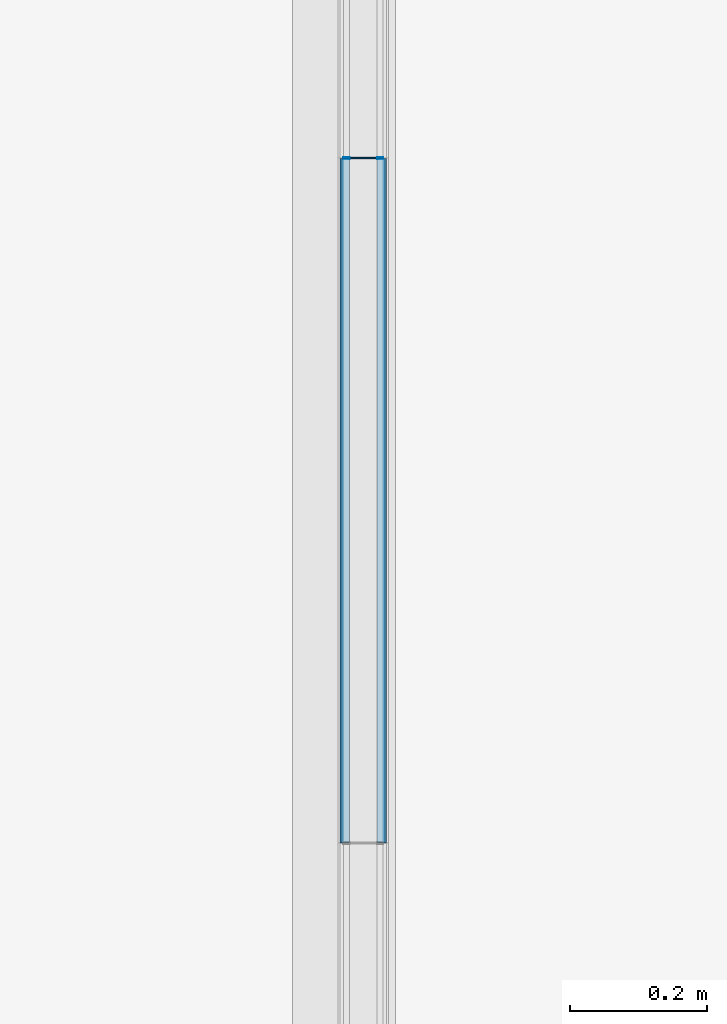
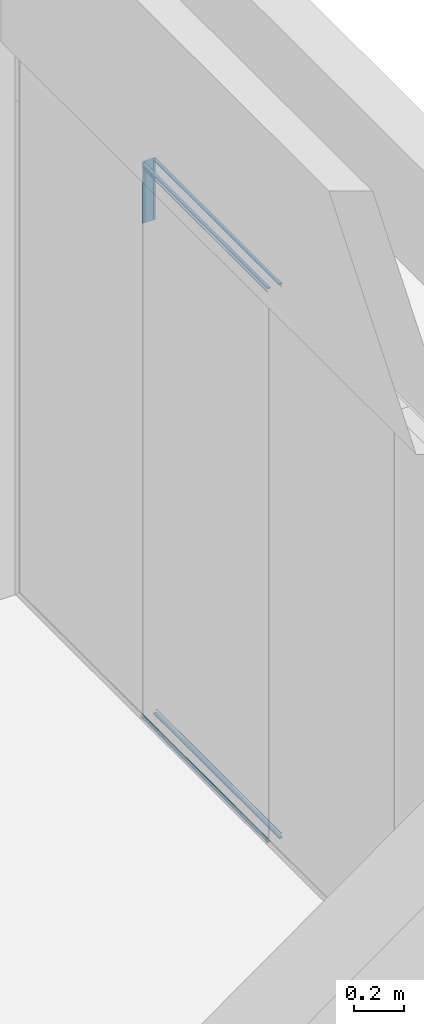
# One storey, part 24 of 65: 4 building element parts, 4 elements without a shape of their own.
"""IFC2X3 building model written with IfcOpenShell, lengths in millimetres."""

from ifc_helpers import new_model, entity, si_unit, converted_unit, derived_unit, money_unit, direction, frame, origin_with_axes, place, context, subcontext, project, spatial, faceted_brep, source, transform, mapped, material, type_object, element, aggregate, save


model = new_model("IFC2X3")

# Units and contexts
model_context = context("Model", 3, precision=0.01, world=origin_with_axes(), true_north=direction((0.0, 1.0)))
body_context = subcontext(model_context, "Body", "Model", "MODEL_VIEW")
ifc_project = project(units=[si_unit("LENGTHUNIT", "METRE", prefix="MILLI"), si_unit("AREAUNIT", "SQUARE_METRE"), si_unit("VOLUMEUNIT", "CUBIC_METRE"), converted_unit("PLANEANGLEUNIT", "DEGREE", entity("IfcPlaneAngleMeasure", 0.0174532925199), si_unit("PLANEANGLEUNIT", "RADIAN"), dimensions=[0, 0, 0, 0, 0, 0, 0]), si_unit("SOLIDANGLEUNIT", "STERADIAN"), money_unit("EUR"), converted_unit("TIMEUNIT", "Year", entity("IfcTimeMeasure", 31556926.0), si_unit("TIMEUNIT", "SECOND"), dimensions=[0, 0, 1, 0, 0, 0, 0]), si_unit("MASSUNIT", "GRAM", prefix="KILO"), si_unit("THERMODYNAMICTEMPERATUREUNIT", "DEGREE_CELSIUS"), si_unit("LUMINOUSINTENSITYUNIT", "LUMEN"), si_unit("ENERGYUNIT", "JOULE", prefix="MEGA"), derived_unit("THERMALCONDUCTANCEUNIT", [(si_unit("POWERUNIT", "WATT"), 1), (si_unit("LENGTHUNIT", "METRE"), -1), (si_unit("THERMODYNAMICTEMPERATUREUNIT", "KELVIN"), -1)]), derived_unit("SPECIFICHEATCAPACITYUNIT", [(si_unit("ENERGYUNIT", "JOULE"), 1), (si_unit("MASSUNIT", "GRAM", prefix="KILO"), -1), (si_unit("THERMODYNAMICTEMPERATUREUNIT", "KELVIN"), -1)]), derived_unit("MASSDENSITYUNIT", [(si_unit("MASSUNIT", "GRAM", prefix="KILO"), 1), (si_unit("VOLUMEUNIT", "CUBIC_METRE"), -1)])], contexts=[model_context])

# Site, building, storey
site_placement = place(None, origin_with_axes())
site = spatial("IfcSite", under=ifc_project, at=site_placement, Name="Puškini 31, Narva", CompositionType="ELEMENT")
building_placement = place(site_placement, origin_with_axes())
building = spatial("IfcBuilding", under=site, at=building_placement, Name="Narva Riigigümnaasium", CompositionType="ELEMENT")
storey_placement = place(building_placement, frame((0.0, 0.0, -1320.0), z_axis=(0.0, 0.0, 1.0), x_axis=(1.0, 0.0, 0.0)))
storey = spatial("IfcBuildingStorey", under=building, at=storey_placement, Name="1.korrus -1.32", CompositionType="ELEMENT", Elevation=-1320.0)

# Curtain wall, members, building element parts
curtain_wall_type = type_object("IfcCurtainWallType", Name="Curtain Wall Type", PredefinedType="NOTDEFINED")
curtain_wall_placement = place(storey_placement, frame((30362.9999988, 168706.249936, -1.99739158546e-06), z_axis=(0.0, 0.0, 1.0), x_axis=(1.0, 0.0, 0.0)))
curtain_wall = element("IfcCurtainWall", 1, at=curtain_wall_placement, inside=storey, type_object=curtain_wall_type, Name="G-SKLF-05")
member_type_1 = type_object("IfcMemberType", Name="Siseklaasfassaad - Raam n2htamatu 3 x 29", PredefinedType="MULLION")
member_1_placement = place(curtain_wall_placement, frame((0.0, 1496.25, 2400.000002), z_axis=(0.0, 0.0, 1.0), x_axis=(0.0, -1.0, 0.0)))
member_1 = element("IfcMember", 2, at=member_1_placement, type_object=member_type_1, Name="G-SKLF-05-klaasidevaheline tihend", ObjectType="MULLION")
ifc_material_1 = material(Name="Klaas")
shared_shape_1 = source(origin_with_axes(), body_context, "Body", "Brep", [
    faceted_brep([(1.49998613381, 29.0064496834, 270.000069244), (1.4999861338, 29.0064496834, 0.0), (-1.5000138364, 29.0064496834, 0.0), (-1.50001386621, 29.0064496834, 270.000069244), (0.0, 29.0064496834, 300.000088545), (1.49998613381, 20.0064497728, 270.000069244), (1.4999861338, 20.0064497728, 0.0), (-1.5000138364, 20.0064497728, 0.0), (-1.50001386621, 20.0064497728, 270.000069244), (0.0, 20.0064497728, 300.000088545)], [[[0, 1, 2, 3, 4]], [[5, 6, 1, 0]], [[1, 6, 7, 2]], [[3, 2, 7, 8]], [[8, 9, 4, 3]], [[4, 9, 5, 0]], [[9, 8, 7, 6, 5]]]),
    faceted_brep([(1.49998613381, -19.993550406, 270.000069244), (1.4999861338, -19.993550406, 0.0), (-1.5000138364, -19.993550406, 0.0), (-1.50001386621, -19.993550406, 270.000069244), (0.0, -19.993550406, 300.000088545), (1.49998613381, -28.9935503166, 270.000069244), (1.4999861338, -28.9935503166, 0.0), (-1.5000138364, -28.9935503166, 0.0), (-1.50001386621, -28.9935503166, 270.000069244), (0.0, -28.9935503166, 300.000088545)], [[[0, 1, 2, 3, 4]], [[5, 6, 1, 0]], [[2, 1, 6, 7]], [[3, 2, 7, 8]], [[8, 9, 4, 3]], [[4, 9, 5, 0]], [[9, 8, 7, 6, 5]]]),
])
building_element_part_1_placement = place(member_1_placement, origin_with_axes())
building_element_part_1 = element("IfcBuildingElementPart", 3, at=building_element_part_1_placement, material=ifc_material_1, Name="Klaas", context=body_context, shape_type="MappedRepresentation", body=[
    mapped(shared_shape_1, transform((0.0, 0.0, 0.0), x_axis=(-1.0, 0.0, 0.0), y_axis=(0.0, -1.0, 0.0), z_axis=(0.0, 0.0, 1.0))),
])
ifc_material_2 = material(Name="VKR-06_Õhkvahe")
shared_shape_2 = source(origin_with_axes(), body_context, "Body", "Brep", [
    faceted_brep([(1.49998613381, 20.0064496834, 270.000069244), (1.4999861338, 20.0064496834, 0.0), (-1.5000138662, 20.0064496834, 0.0), (-1.50001386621, 20.0064496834, 270.000069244), (0.0, 20.0064496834, 300.000088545), (1.49998613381, -19.9935503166, 270.000069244), (1.4999861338, -19.9935503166, 0.0), (-1.5000138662, -19.9935503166, 0.0), (-1.50001386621, -19.9935503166, 270.000069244), (0.0, -19.9935503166, 300.000088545)], [[[0, 1, 2, 3, 4]], [[5, 6, 1, 0]], [[2, 1, 6, 7]], [[3, 2, 7, 8]], [[8, 9, 4, 3]], [[4, 9, 5, 0]], [[9, 8, 7, 6, 5]]]),
])
building_element_part_2_placement = place(member_1_placement, origin_with_axes())
building_element_part_2 = element("IfcBuildingElementPart", 4, at=building_element_part_2_placement, material=ifc_material_2, Name="VKR-06_Õhkvahe", context=body_context, shape_type="MappedRepresentation", body=[
    mapped(shared_shape_2, transform((0.0, 0.0, 0.0), x_axis=(-1.0, 0.0, 0.0), y_axis=(0.0, -1.0, 0.0), z_axis=(0.0, 0.0, 1.0))),
])
aggregate(member_1, [building_element_part_1, building_element_part_2])
member_type_2 = type_object("IfcMemberType", Name="Boundary Frame 30 x 37", PredefinedType="MULLION")
member_2_placement = place(curtain_wall_placement, frame((0.0, 498.75, 2700.00009054), z_axis=(0.0, 1.0, 0.0), x_axis=(0.0, 0.0, 1.0)))
member_2 = element("IfcMember", 5, at=member_2_placement, type_object=member_type_2, Name="G-SKLF-12-raam", ObjectType="MULLION")
ifc_material_3 = material(Name="Klaasvill")
shared_shape_3 = source(origin_with_axes(), body_context, "Body", "Brep", [
    faceted_brep([(13.8499999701, 20.000000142, 0.69249315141), (13.8499999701, 20.000000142, 996.807494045), (7.49999990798, 20.000000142, 997.124996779), (7.49999990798, 20.000000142, 0.374996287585), (13.8499999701, 34.0161444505, 0.69249315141), (13.8499999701, 34.0161444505, 996.807494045), (7.49999990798, 34.0161444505, 997.124996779), (7.49999990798, 34.0161444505, 0.374996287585)], [[[0, 1, 2, 3]], [[4, 5, 1, 0]], [[2, 1, 5, 6]], [[3, 2, 6, 7]], [[3, 7, 4, 0]], [[7, 6, 5, 4]]]),
    faceted_brep([(25.004489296, 32.0307503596, 1.2502121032), (25.004489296, 32.0307503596, 996.249764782), (24.987414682, 34.0161444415, 996.25061852), (24.987414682, 34.0161444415, 1.24935838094), (25.742237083, 31.2930025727, 1.28709912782), (25.742237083, 31.2930025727, 996.212877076), (26.7500193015, 31.0229681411, 996.162487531), (27.75780152, 31.2930025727, 996.112097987), (28.4955493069, 32.0307503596, 996.075210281), (28.7655837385, 33.0385325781, 996.061708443), (28.5126239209, 34.0161444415, 996.074356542), (28.5126239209, 34.0161444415, 1.42561710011), (28.7655837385, 33.0385325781, 1.43826496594), (28.4955493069, 32.0307503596, 1.42476337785), (27.75780152, 31.2930025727, 1.38787635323), (26.7500193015, 31.0229681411, 1.33748774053)], [[[0, 1, 2, 3]], [[4, 5, 1, 0]], [[2, 1, 5, 6, 7, 8, 9, 10]], [[3, 2, 10, 11]], [[3, 11, 12, 13, 14, 15, 4, 0]], [[15, 6, 5, 4]], [[14, 7, 6, 15]], [[13, 8, 7, 14]], [[12, 9, 8, 13]], [[11, 10, 9, 12]]]),
    faceted_brep([(7.49999990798, -34.0161445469, 0.374996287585), (7.49999990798, -34.0161445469, 997.124996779), (7.49999990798, -19.9999997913, 997.124996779), (7.49999990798, -19.9999997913, 0.374996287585), (13.8499999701, -34.0161445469, 0.69249315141), (13.8499999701, -34.0161445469, 996.807494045), (13.8499999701, -19.9999997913, 996.807494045), (13.8499999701, -19.9999997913, 0.69249315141)], [[[0, 1, 2, 3]], [[4, 5, 1, 0]], [[2, 1, 5, 6]], [[3, 2, 6, 7]], [[3, 7, 4, 0]], [[7, 6, 5, 4]]]),
    faceted_brep([(24.987414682, -34.0161444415, 1.24935838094), (24.987414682, -34.0161444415, 996.25061852), (25.004489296, -32.0307503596, 996.249764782), (25.004489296, -32.0307503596, 1.2502121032), (28.5126239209, -34.0161444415, 1.42561710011), (28.5126239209, -34.0161444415, 996.074356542), (28.7655837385, -33.0385325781, 996.061708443), (28.4955493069, -32.0307503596, 996.075210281), (27.75780152, -31.2930025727, 996.112097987), (26.7500193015, -31.0229681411, 996.162487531), (25.742237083, -31.2930025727, 996.212877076), (25.742237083, -31.2930025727, 1.28709912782), (26.7500193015, -31.0229681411, 1.33748774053), (27.75780152, -31.2930025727, 1.38787635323), (28.4955493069, -32.0307503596, 1.42476337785), (28.7655837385, -33.0385325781, 1.43826496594)], [[[0, 1, 2, 3]], [[4, 5, 1, 0]], [[2, 1, 5, 6, 7, 8, 9, 10]], [[3, 2, 10, 11]], [[3, 11, 12, 13, 14, 15, 4, 0]], [[15, 6, 5, 4]], [[14, 7, 6, 15]], [[13, 8, 7, 14]], [[12, 9, 8, 13]], [[11, 10, 9, 12]]]),
])
building_element_part_3_placement = place(member_2_placement, origin_with_axes())
building_element_part_3 = element("IfcBuildingElementPart", 6, at=building_element_part_3_placement, material=ifc_material_3, Name="Klaasvill", context=body_context, shape_type="MappedRepresentation", body=[
    mapped(shared_shape_3, transform((0.0, 0.0, 0.0), x_axis=(-1.0, 0.0, 0.0), y_axis=(0.0, -1.0, 0.0), z_axis=(0.0, 0.0, 1.0))),
])
aggregate(member_2, [building_element_part_3])
member_3_placement = place(curtain_wall_placement, frame((0.0, 498.75, 0.0), z_axis=(0.0, 1.0, 0.0), x_axis=(0.0, 0.0, 1.0)))
member_3 = element("IfcMember", 7, at=member_3_placement, type_object=member_type_2, Name="G-SKLF-07-raam", ObjectType="MULLION")
aggregate(curtain_wall, [member_1, member_3, member_2])
shared_shape_4 = source(origin_with_axes(), body_context, "Body", "Brep", [
    faceted_brep([(-13.8499999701, 20.000000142, 0.69249315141), (-7.49999990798, 20.000000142, 0.374996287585), (-7.49999990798, 20.000000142, 997.124996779), (-13.8499999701, 20.000000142, 996.807494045), (-13.8499999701, 34.0161444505, 0.69249315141), (-7.49999990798, 34.0161444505, 0.374996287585), (-7.49999990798, 34.0161444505, 997.124996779), (-13.8499999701, 34.0161444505, 996.807494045)], [[[0, 1, 2, 3]], [[1, 0, 4, 5]], [[1, 5, 6, 2]], [[2, 6, 7, 3]], [[4, 0, 3, 7]], [[5, 4, 7, 6]]]),
    faceted_brep([(-25.004489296, 32.0307503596, 1.2502121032), (-24.987414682, 34.0161444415, 1.24935838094), (-24.987414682, 34.0161444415, 996.25061852), (-25.004489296, 32.0307503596, 996.249764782), (-25.742237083, 31.2930025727, 1.28709912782), (-26.7500193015, 31.0229681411, 1.33748774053), (-27.75780152, 31.2930025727, 1.38787635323), (-28.4955493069, 32.0307503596, 1.42476337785), (-28.7655837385, 33.0385325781, 1.43826496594), (-28.5126239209, 34.0161444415, 1.42561710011), (-28.5126239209, 34.0161444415, 996.074356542), (-28.7655837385, 33.0385325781, 996.061708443), (-28.4955493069, 32.0307503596, 996.075210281), (-27.75780152, 31.2930025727, 996.112097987), (-26.7500193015, 31.0229681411, 996.162487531), (-25.742237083, 31.2930025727, 996.212877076)], [[[0, 1, 2, 3]], [[1, 0, 4, 5, 6, 7, 8, 9]], [[1, 9, 10, 2]], [[2, 10, 11, 12, 13, 14, 15, 3]], [[4, 0, 3, 15]], [[5, 4, 15, 14]], [[6, 5, 14, 13]], [[7, 6, 13, 12]], [[8, 7, 12, 11]], [[9, 8, 11, 10]]]),
    faceted_brep([(-7.49999990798, -34.0161445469, 0.374996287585), (-7.49999990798, -19.9999997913, 0.374996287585), (-7.49999990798, -19.9999997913, 997.124996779), (-7.49999990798, -34.0161445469, 997.124996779), (-13.8499999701, -34.0161445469, 0.69249315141), (-13.8499999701, -19.9999997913, 0.69249315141), (-13.8499999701, -19.9999997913, 996.807494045), (-13.8499999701, -34.0161445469, 996.807494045)], [[[0, 1, 2, 3]], [[1, 0, 4, 5]], [[1, 5, 6, 2]], [[2, 6, 7, 3]], [[4, 0, 3, 7]], [[5, 4, 7, 6]]]),
    faceted_brep([(-24.987414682, -34.0161444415, 1.24935838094), (-25.004489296, -32.0307503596, 1.2502121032), (-25.004489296, -32.0307503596, 996.249764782), (-24.987414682, -34.0161444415, 996.25061852), (-28.5126239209, -34.0161444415, 1.42561710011), (-28.7655837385, -33.0385325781, 1.43826496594), (-28.4955493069, -32.0307503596, 1.42476337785), (-27.75780152, -31.2930025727, 1.38787635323), (-26.7500193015, -31.0229681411, 1.33748774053), (-25.742237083, -31.2930025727, 1.28709912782), (-25.742237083, -31.2930025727, 996.212877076), (-26.7500193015, -31.0229681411, 996.162487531), (-27.75780152, -31.2930025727, 996.112097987), (-28.4955493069, -32.0307503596, 996.075210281), (-28.7655837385, -33.0385325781, 996.061708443), (-28.5126239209, -34.0161444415, 996.074356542)], [[[0, 1, 2, 3]], [[1, 0, 4, 5, 6, 7, 8, 9]], [[1, 9, 10, 2]], [[2, 10, 11, 12, 13, 14, 15, 3]], [[4, 0, 3, 15]], [[5, 4, 15, 14]], [[6, 5, 14, 13]], [[7, 6, 13, 12]], [[8, 7, 12, 11]], [[9, 8, 11, 10]]]),
])
building_element_part_4_placement = place(member_3_placement, origin_with_axes())
building_element_part_4 = element("IfcBuildingElementPart", 8, at=building_element_part_4_placement, material=ifc_material_3, Name="Klaasvill", context=body_context, shape_type="MappedRepresentation", body=[
    mapped(shared_shape_4, transform((0.0, 0.0, 0.0), x_axis=(-1.0, 0.0, 0.0), y_axis=(0.0, -1.0, 0.0), z_axis=(0.0, 0.0, 1.0))),
])
aggregate(member_3, [building_element_part_4])

save(model, "model.ifc")
